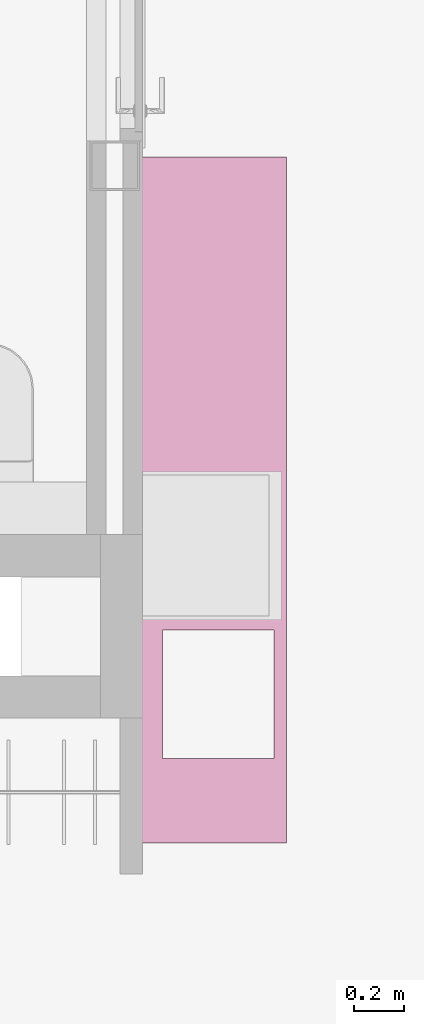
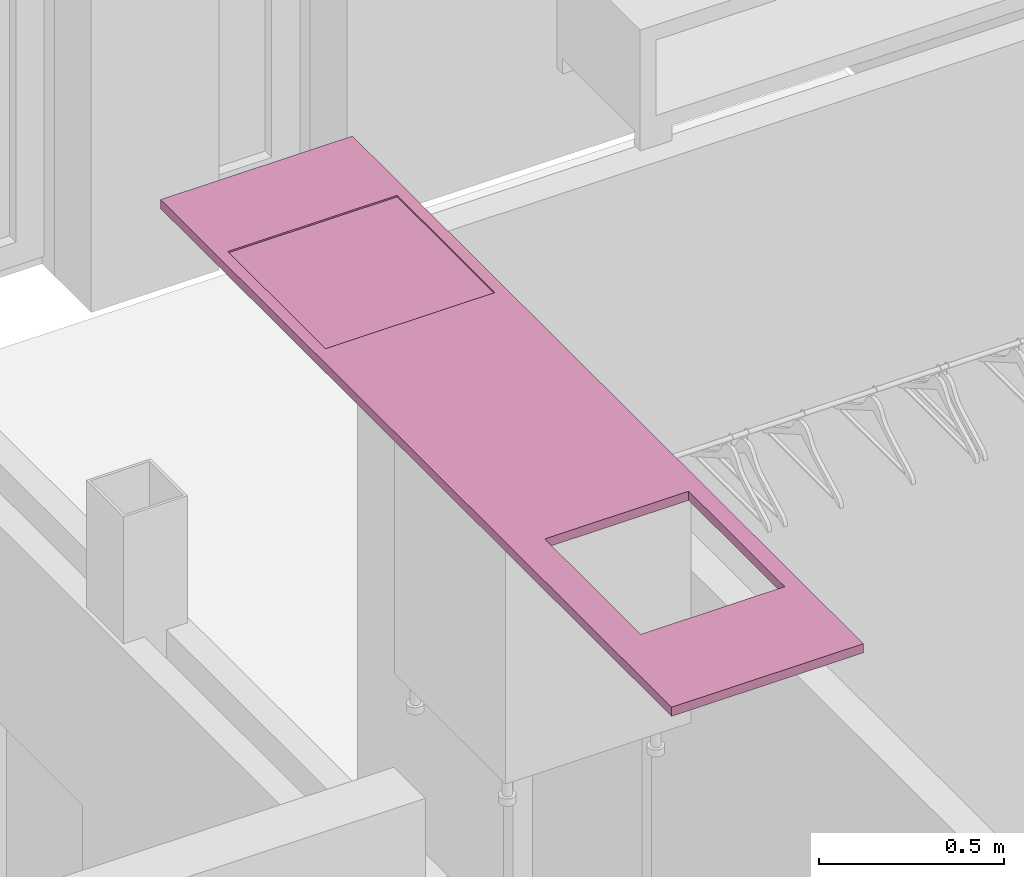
# One storey, part 39 of 68: 1 furnishing.
"""IFC2X3 building model written with IfcOpenShell, lengths in millimetres."""

from ifc_helpers import new_model, entity, si_unit, converted_unit, direction, frame, origin, place, context, subcontext, project, spatial, faceted_brep, source, transform, mapped, material, type_object, type_shapes, element, save


model = new_model("IFC2X3")

# Units and contexts
model_context = context("Model", 3, precision=0.01, world=origin(), true_north=direction((6.123233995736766e-17, 1.0)))
plan_context = context("Plan", 3, precision=0.01, world=origin(), true_north=direction((6.123233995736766e-17, 1.0)))
body_context = subcontext(model_context, "Body", "Model", "MODEL_VIEW")
ifc_project = project(units=[si_unit("LENGTHUNIT", "METRE", prefix="MILLI"), converted_unit("PLANEANGLEUNIT", "DEGREE", entity("IfcPlaneAngleMeasure", 0.017453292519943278), si_unit("PLANEANGLEUNIT", "RADIAN"), dimensions=[0, 0, 0, 0, 0, 0, 0]), si_unit("AREAUNIT", "SQUARE_METRE")], contexts=[model_context, plan_context])

# Site, building, storey, space
site_placement = place(None, origin())
site = spatial("IfcSite", under=ifc_project, at=site_placement, Name="Default", CompositionType="ELEMENT")
building_placement = place(site_placement, origin())
building = spatial("IfcBuilding", under=site, at=building_placement, CompositionType="ELEMENT")
storey_placement = place(building_placement, frame((0.0, 0.0, 6295.0)))
storey = spatial("IfcBuildingStorey", under=building, at=storey_placement, Name="3K", CompositionType="ELEMENT", Elevation=6294.999999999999)
space_placement = place(storey_placement, origin())
space = spatial("IfcSpace", under=storey, at=space_placement, Name="3-7.1", CompositionType="ELEMENT", InteriorOrExteriorSpace="INTERNAL")

# Furnishing
ifc_material = material(Name="<Unnamed>")
furniture_type = type_object("IfcFurnitureType", Name="HR_Casework_Work-surface_Generic_Rectangular_v1:Default", AssemblyPlace="NOTDEFINED", material=ifc_material)
shared_shape = source(origin(), body_context, "Body", "Brep", [
    faceted_brep([(12668.0, 7966.0, 900.0), (12668.0, 10734.0, 900.0), (12068.0, 10734.0, 900.0), (12068.0, 7966.0, 900.0), (12633.0, 10431.0, 900.0), (12633.0, 9901.0, 900.0), (12103.0, 9901.0, 900.0), (12103.0, 10431.0, 900.0), (12618.0, 8826.0, 900.0), (12618.0, 8306.0, 900.0), (12168.0, 8306.0, 900.0), (12168.0, 8826.0, 900.0), (12668.0, 7966.0, 870.0), (12068.0, 7966.0, 870.0), (12068.0, 10734.0, 870.0), (12668.0, 10734.0, 870.0), (12618.0, 8306.0, 870.0), (12618.0, 8826.0, 870.0), (12168.0, 8826.0, 870.0), (12168.0, 8306.0, 870.0), (12633.0, 9901.0, 895.0), (12633.0, 10431.0, 895.0), (12103.0, 10431.0, 895.0), (12103.0, 9901.0, 895.0)], [[[0, 1, 2, 3], [4, 5, 6, 7], [8, 9, 10, 11]], [[12, 13, 14, 15], [16, 17, 18, 19]], [[1, 0, 12, 15]], [[2, 1, 15, 14]], [[3, 2, 14, 13]], [[0, 3, 13, 12]], [[20, 21, 22, 23]], [[21, 20, 5, 4]], [[22, 21, 4, 7]], [[23, 22, 7, 6]], [[20, 23, 6, 5]], [[16, 9, 8, 17]], [[17, 8, 11, 18]], [[18, 11, 10, 19]], [[9, 16, 19, 10]]]),
])
type_shapes(furniture_type, [shared_shape])
furnishing_placement = place(space_placement, frame((0.0, 0.0, 3170.000076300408)))
element("IfcFurnishingElement", 1, at=furnishing_placement, inside=space, type_object=furniture_type, material=ifc_material, Name="HR_Casework_Work-surface_Generic_Rectangular_v1:Default", ObjectType="HR_Casework_Work-surface_Generic_Rectangular_v1:Default", context=body_context, shape_type="MappedRepresentation", body=[
    mapped(shared_shape, transform((0.0, 0.0, 0.0), scale=1.0)),
])

save(model, "model.ifc")
